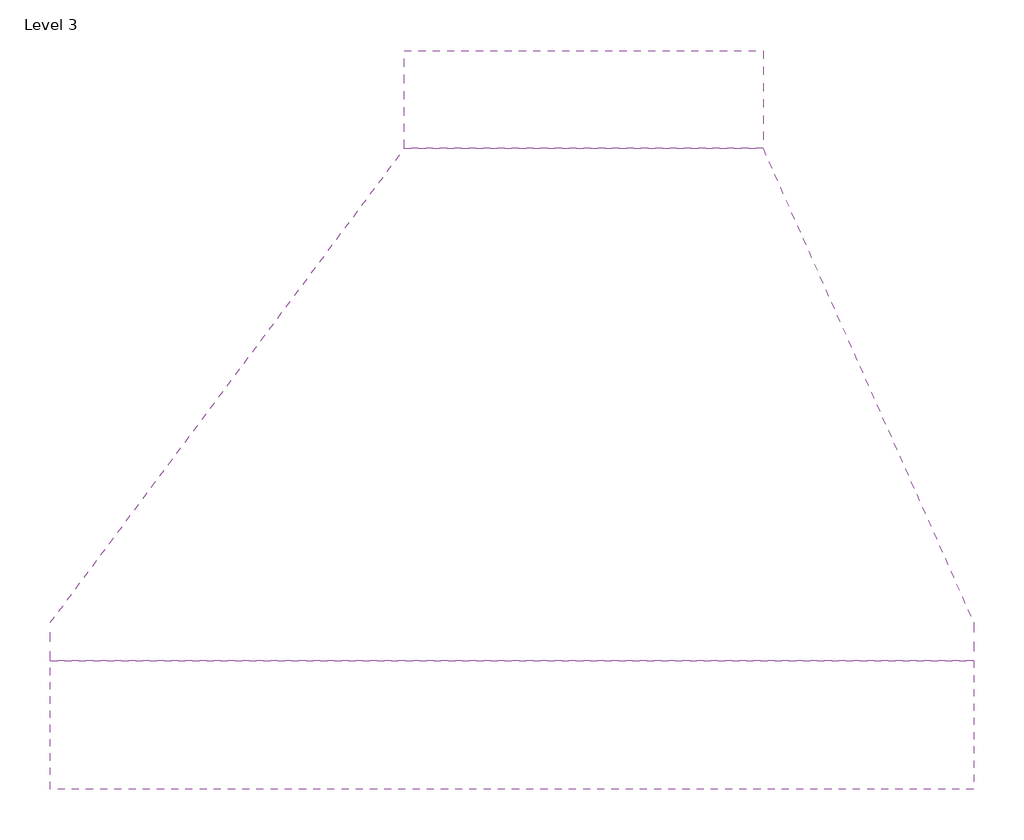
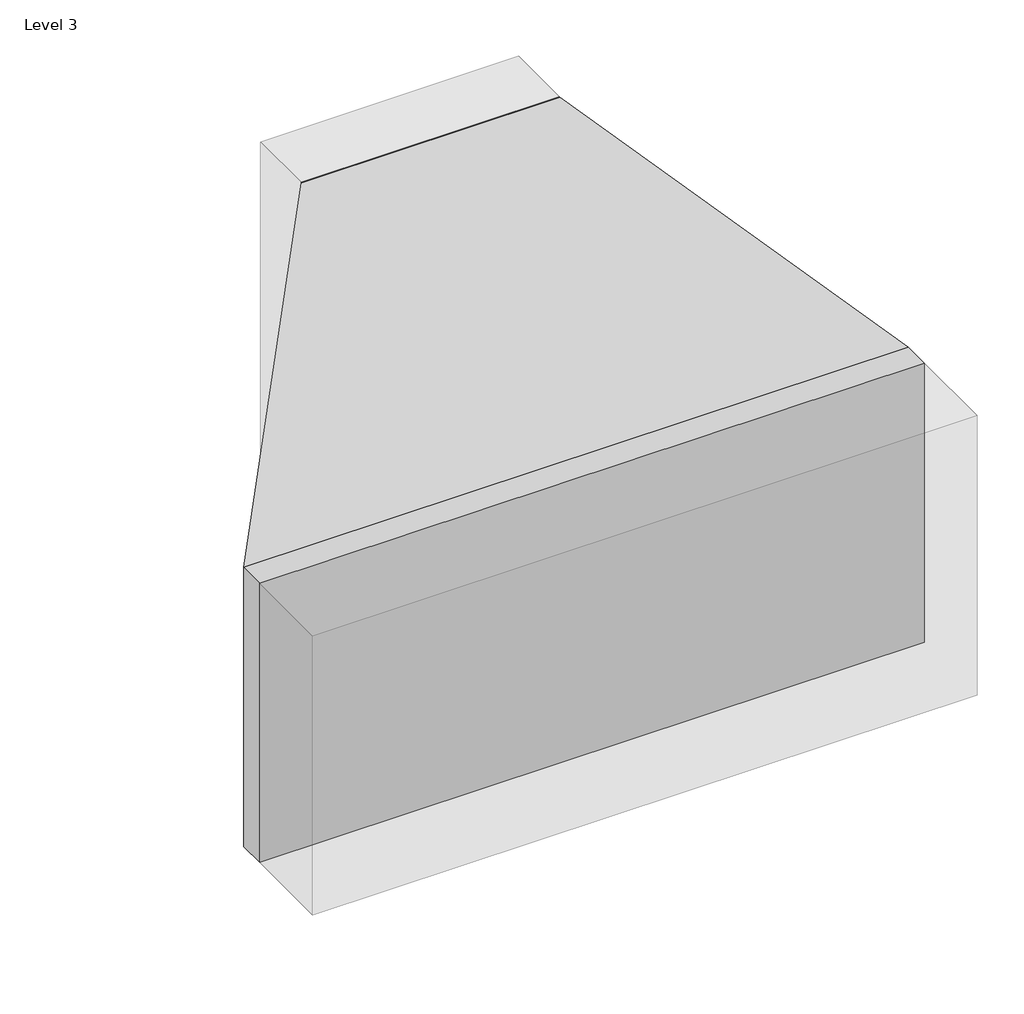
# One storey: 2 duct segments, 1 duct fitting.
"""IFC4 building model written with IfcOpenShell, lengths in millimetres."""

import ifcopenshell
import ifcopenshell.guid

model = None  # the IFC model being written
_history = None  # IfcOwnerHistory: only IFC2X3 demands one
_inside = {}  # id of a spatial element -> (the spatial element, [elements in it])
_under = {}  # id of a project, library or spatial element -> (it, [spatial elements below it])
_declared = {}  # id of a project -> (the project, [libraries it declares])
_typed = {}  # id of a type object -> (the type object, [elements of that type])
_made_of = {}  # id of a material, layer set ... -> (it, [elements and type objects made of it])


def new_model(schema):
    """Start an empty IFC model of exactly this schema.

    Asked for "IFC4X3", IfcOpenShell would pick the latest addendum, in which some entities
    have other attributes; the version numbers below select the first issue.
    IFC2X3 requires an IfcOwnerHistory on every rooted entity: one is made here for all.
    """
    global model, _history
    if schema == "IFC4X3":
        model = ifcopenshell.file(schema_version=(4, 3, 0, 0))
    else:
        model = ifcopenshell.file(schema=schema)
    _inside.clear()
    _under.clear()
    _declared.clear()
    _typed.clear()
    _made_of.clear()
    _history = None
    if model.schema == "IFC2X3":
        org = make("IfcOrganization", Name="unknown")
        user = make(
            "IfcPersonAndOrganization",
            ThePerson=make("IfcPerson", FamilyName="unknown"),
            TheOrganization=org,
        )
        app = make(
            "IfcApplication",
            ApplicationDeveloper=org,
            Version="unknown",
            ApplicationFullName="unknown",
            ApplicationIdentifier="unknown",
        )
        _history = make(
            "IfcOwnerHistory",
            OwningUser=user,
            OwningApplication=app,
            ChangeAction="ADDED",
            CreationDate=0,
        )
    return model


def make(cls, **values):
    """One entity of the class cls with the attributes given. An attribute that is None is left unset."""
    return model.create_entity(
        cls, **{name: value for name, value in values.items() if value is not None}
    )


def rooted(cls, **values):
    """An entity with a GlobalId (a new one), such as an element, a storey or a relation."""
    return make(cls, GlobalId=ifcopenshell.guid.new(), OwnerHistory=_history, **values)


def si_unit(unit_type, name, prefix=None):
    """IfcSIUnit, for example si_unit("LENGTHUNIT", "METRE", prefix="MILLI")."""
    return make("IfcSIUnit", UnitType=unit_type, Prefix=prefix, Name=name)


def assignment(units):
    """IfcUnitAssignment: the units of a project."""
    return None if units is None else make("IfcUnitAssignment", Units=units)


def point(xyz):
    """IfcCartesianPoint."""
    return None if xyz is None else make("IfcCartesianPoint", Coordinates=xyz)


def direction(xyz):
    """IfcDirection."""
    return None if xyz is None else make("IfcDirection", DirectionRatios=xyz)


def frame(location, z_axis=None, x_axis=None):
    """IfcAxis2Placement3D, a coordinate frame: its origin and axes. An axis left out is left unset."""
    return make(
        "IfcAxis2Placement3D",
        Location=point(location),
        Axis=direction(z_axis),
        RefDirection=direction(x_axis),
    )


def origin():
    """The frame at (0, 0, 0) with its axes left unset."""
    return frame((0.0, 0.0, 0.0))


def place(relative_to, where):
    """IfcLocalPlacement: puts the frame where relative to a parent placement (None: the world)."""
    return make(
        "IfcLocalPlacement", PlacementRelTo=relative_to, RelativePlacement=where
    )


def context(
    kind, dimensions, precision=None, world=None, true_north=None, identifier=None
):
    """IfcGeometricRepresentationContext, for example the 3D "Model" context."""
    return make(
        "IfcGeometricRepresentationContext",
        ContextIdentifier=identifier,
        ContextType=kind,
        CoordinateSpaceDimension=dimensions,
        Precision=precision,
        WorldCoordinateSystem=world,
        TrueNorth=true_north,
    )


def project(units=None, contexts=None):
    """IfcProject with its units and contexts."""
    return rooted(
        "IfcProject",
        Name="project",
        RepresentationContexts=contexts,
        UnitsInContext=assignment(units),
    )


def spatial(cls, under=None, at=None, **own):
    """A site, building, storey or space (cls), placed at a placement, below another one or the project."""
    s = rooted(cls, ObjectPlacement=at, **own)
    if under is not None:
        _under.setdefault(under.id(), (under, []))[1].append(s)
    return s


def polyline(points):
    """IfcPolyline through the points."""
    return make("IfcPolyline", Points=[point(p) for p in points])


def outline(outer, holes=None, kind="AREA"):
    """IfcArbitraryClosedProfileDef: a profile drawn as a closed curve; with holes, ...WithVoids."""
    if holes is None:
        return make("IfcArbitraryClosedProfileDef", ProfileType=kind, OuterCurve=outer)
    return make(
        "IfcArbitraryProfileDefWithVoids",
        ProfileType=kind,
        OuterCurve=outer,
        InnerCurves=holes,
    )


def extrude(swept, where, along, depth):
    """IfcExtrudedAreaSolid: the profile swept, set in the frame where, extruded along a direction by depth."""
    return make(
        "IfcExtrudedAreaSolid",
        SweptArea=swept,
        Position=where,
        ExtrudedDirection=direction(along),
        Depth=depth,
    )


def faces_of(points, faces, orient=None, outer=None):
    """IfcFace entities. A face is a list of loops; a loop is a list of indices into points, from 0.

    orient and outer hold one flag for each loop. By default every Orientation is true, the
    first loop of a face is its IfcFaceOuterBound and the others are IfcFaceBound.
    """
    made = []
    for i, loops in enumerate(faces):
        bounds = []
        for j, loop in enumerate(loops):
            is_outer = j == 0 if outer is None else outer[i][j]
            bounds.append(
                make(
                    "IfcFaceOuterBound" if is_outer else "IfcFaceBound",
                    Bound=make("IfcPolyLoop", Polygon=[points[k] for k in loop]),
                    Orientation=True if orient is None else orient[i][j],
                )
            )
        made.append(make("IfcFace", Bounds=bounds))
    return made


def faceted_brep(points, faces, orient=None, outer=None, voids=None):
    """IfcFacetedBrep: a solid bounded by flat faces; with voids (closed shells), ...WithVoids."""
    shared = [point(p) for p in points]
    hull = make("IfcClosedShell", CfsFaces=faces_of(shared, faces, orient, outer))
    if voids is None:
        return make("IfcFacetedBrep", Outer=hull)
    return make(
        "IfcFacetedBrepWithVoids",
        Outer=hull,
        Voids=[
            make(cls, CfsFaces=faces_of(shared, fs, o, b)) for cls, fs, o, b in voids
        ],
    )


def shape(context_of_items, identifier, shape_type, items):
    """IfcShapeRepresentation: the items that make up one representation, for example the "Body"."""
    return make(
        "IfcShapeRepresentation",
        ContextOfItems=context_of_items,
        RepresentationIdentifier=identifier,
        RepresentationType=shape_type,
        Items=items,
    )


def source(mapping_origin, context_of_items, identifier, shape_type, items):
    """IfcRepresentationMap: a shape defined once, which mapped items show again and again."""
    return make(
        "IfcRepresentationMap",
        MappingOrigin=mapping_origin,
        MappedRepresentation=shape(context_of_items, identifier, shape_type, items),
    )


def transform(
    local_origin,
    x_axis=None,
    y_axis=None,
    z_axis=None,
    scale=None,
    scale2=None,
    scale3=None,
    uniform=True,
):
    """IfcCartesianTransformationOperator3D, or its non-uniform kind. x_axis, y_axis, z_axis: its Axis1, 2, 3."""
    if uniform:
        return make(
            "IfcCartesianTransformationOperator3D",
            Axis1=direction(x_axis),
            Axis2=direction(y_axis),
            LocalOrigin=point(local_origin),
            Scale=scale,
            Axis3=direction(z_axis),
        )
    return make(
        "IfcCartesianTransformationOperator3DnonUniform",
        Axis1=direction(x_axis),
        Axis2=direction(y_axis),
        LocalOrigin=point(local_origin),
        Scale=scale,
        Axis3=direction(z_axis),
        Scale2=scale2,
        Scale3=scale3,
    )


def mapped(mapping_source, mapping_target):
    """IfcMappedItem: shows the shape of a source again, moved by a transform."""
    return make(
        "IfcMappedItem", MappingSource=mapping_source, MappingTarget=mapping_target
    )


def made_of(thing, what):
    """Note that an element or type object is made of a material, layer set ...; save() writes the relation."""
    if what is not None:
        _made_of.setdefault(what.id(), (what, []))[1].append(thing)
    return thing


def element(
    cls,
    number,
    at=None,
    inside=None,
    cuts=None,
    type_object=None,
    material=None,
    context=None,
    identifier="Body",
    shape_type=None,
    held_by="IfcProductDefinitionShape",
    body=None,
    shapes=None,
    **own,
):
    """One element of the class cls, such as IfcWall. Its Tag is "e" and its number.

    at: its placement. inside: the storey or other place that contains it. cuts: it is an
    opening in that element (IfcRelVoidsElement). A single representation is given by context,
    identifier, shape_type and body (its items); several are given by shapes. held_by: the class
    of the entity that holds the representations. save() writes the other relations.
    """
    e = rooted(cls, Tag="e%d" % number, ObjectPlacement=at, **own)
    if body is not None:
        shapes = [shape(context, identifier, shape_type, body)]
    if shapes is not None:
        e.Representation = make(held_by, Representations=shapes)
    if inside is not None:
        _inside.setdefault(inside.id(), (inside, []))[1].append(e)
    if cuts is not None:
        rooted(
            "IfcRelVoidsElement", RelatingBuildingElement=cuts, RelatedOpeningElement=e
        )
    if type_object is not None:
        _typed.setdefault(type_object.id(), (type_object, []))[1].append(e)
    return made_of(e, material)


def aggregate(whole, parts):
    """IfcRelAggregates: a whole, such as a stair, and the parts it consists of."""
    return rooted("IfcRelAggregates", RelatingObject=whole, RelatedObjects=parts)


def save(model, path):
    """Write the relations noted so far, then the file.

    IfcRelAggregates (storeys below a building ...), IfcRelContainedInSpatialStructure (elements
    in a storey), IfcRelDefinesByType, IfcRelAssociatesMaterial and IfcRelDeclares: one each for
    every whole, place, type object, material and project.
    """
    for whole, parts in _under.values():
        aggregate(whole, parts)
    for where, things in _inside.values():
        rooted(
            "IfcRelContainedInSpatialStructure",
            RelatedElements=things,
            RelatingStructure=where,
        )
    for kind, things in _typed.values():
        rooted("IfcRelDefinesByType", RelatedObjects=things, RelatingType=kind)
    for what, things in _made_of.values():
        rooted("IfcRelAssociatesMaterial", RelatedObjects=things, RelatingMaterial=what)
    for by, libraries in _declared.values():
        rooted("IfcRelDeclares", RelatingContext=by, RelatedDefinitions=libraries)
    model.write(path)


def rectangular_length_eccentric_transition_dtl_standard_04142d37(model_context):
    return source(origin(), model_context, "Body", "SolidModel", [
        extrude(outline(polyline([(508.0, 106.9313901), (508.0, -248.6686099), (507.20625, -248.6686099), (507.20625, 106.9313901), (508.0, 106.9313901)])), frame((0.0, 0.0, -355.6), z_axis=(0.0, 0.0, 1.0), x_axis=(1.0, 0.0, 0.0)), (0.0, 0.0, 1.0), 711.2),
        extrude(outline(polyline([(38.1, 457.2), (38.1, -457.2), (0.0, -457.2), (0.0, 457.2), (38.1, 457.2)])), frame((0.0, 0.0, -203.2), z_axis=(0.0, 0.0, 1.0), x_axis=(1.0, 0.0, 0.0)), (0.0, 0.0, 1.0), 406.4),
        faceted_brep([(38.1, 457.2, 203.2), (38.1, 457.2, -203.2), (38.1, -457.2, -203.2), (38.1, -457.2, 203.2), (507.20625, 106.9313901, 355.6), (507.20625, -248.6686099, 355.6), (507.20625, -248.6686099, -355.6), (507.20625, 106.9313901, -355.6)], [[[0, 1, 2, 3]], [[4, 5, 6, 7]], [[4, 7, 1, 0]], [[7, 6, 2, 1]], [[6, 5, 3, 2]], [[5, 4, 0, 3]]]),
    ])


model = new_model("IFC4")

# Units and contexts
model_context = context("Model", 3, world=origin())
ifc_project = project(units=[si_unit("LENGTHUNIT", "METRE", prefix="MILLI")], contexts=[model_context])

# Site, building, storey
site = spatial("IfcSite", under=ifc_project)
building = spatial("IfcBuilding", under=site)
storey = spatial("IfcBuildingStorey", under=building, Name="Level 3", Elevation=7315.2)

# Duct fitting
placement = place(None, origin())
rectangular_length_eccentric_transition_dtl_standard_shape = rectangular_length_eccentric_transition_dtl_standard_04142d37(model_context)
element("IfcDuctFitting", 1, ObjectType="Rectangular Length Eccentric Transition - DTL : Standard", at=placement, inside=storey, context=model_context, shape_type="MappedRepresentation", body=[
    mapped(rectangular_length_eccentric_transition_dtl_standard_shape, transform((-11813.1101183, -513.4329266, 54330.6), x_axis=(0.0, 1.0, 0.0), y_axis=(-1.0, 0.0, 0.0), z_axis=(0.0, 0.0, 1.0))),
])

# Duct segments
element("IfcDuctSegment", 2, ObjectType="Square Throat Elbows / S&D", at=placement, inside=storey, context=model_context, shape_type="SweptSolid", body=[
    extrude(outline(polyline([(-11920.0415084, 91.1435985), (-11564.4415084, 91.1435985), (-11564.4415084, -5.4329266), (-11920.0415084, -5.4329266), (-11920.0415084, 91.1435985)])), frame((0.0, 0.0, 53975.0), z_axis=(0.0, 0.0, 1.0), x_axis=(1.0, 0.0, 0.0)), (0.0, 0.0, 1.0), 711.2),
])
element("IfcDuctSegment", 3, ObjectType="Square Throat Elbows / S&D", at=placement, inside=storey, context=model_context, shape_type="SweptSolid", body=[
    extrude(outline(polyline([(-11355.9101183, -640.4329266), (-12270.3101183, -640.4329266), (-12270.3101183, -513.4329266), (-11355.9101183, -513.4329266), (-11355.9101183, -640.4329266)])), frame((0.0, 0.0, 54127.4), z_axis=(0.0, 0.0, 1.0), x_axis=(1.0, 0.0, 0.0)), (0.0, 0.0, 1.0), 406.4),
])

save(model, "model.ifc")
